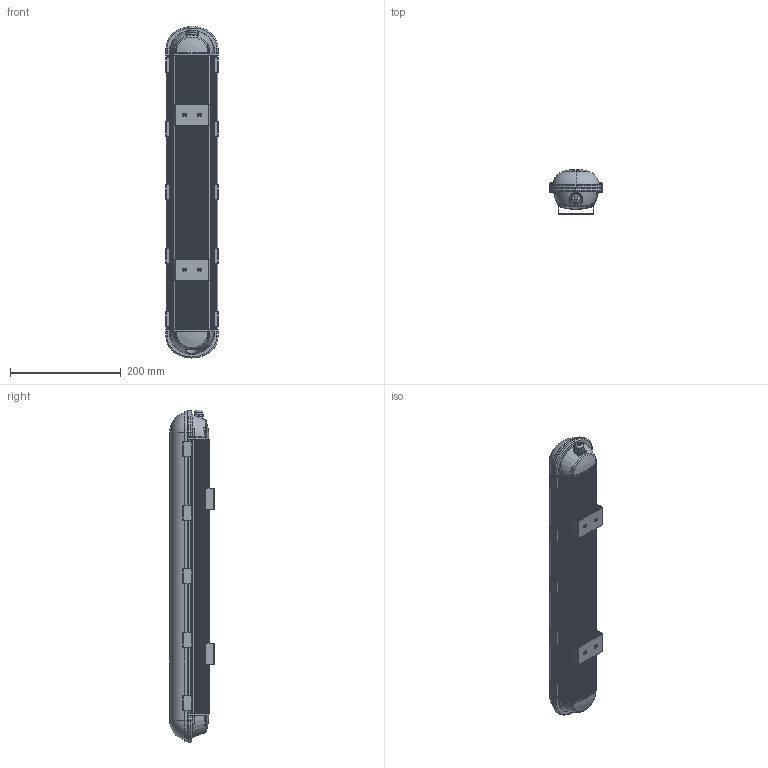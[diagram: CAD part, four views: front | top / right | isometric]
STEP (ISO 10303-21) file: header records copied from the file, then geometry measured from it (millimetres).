
FILE_DESCRIPTION(('STEP AP203'), '1');
FILE_NAME('Àëþìî Øîò 18Âò', '', ('UNSPECIFIED'), ('UNSPECIFIED'), 'ASCON STEP Converter 1.6', 'ASCON Math Kernel', '');
FILE_SCHEMA(('CONFIG_CONTROL_DESIGN'));
Length unit declared in the file: millimetre
Products named in the file (12): PGM7
Assembly tree (19 placements, depth 2):
  (unnamed)
    (unnamed)
    (unnamed)
    (unnamed)
    (unnamed)
    (unnamed)
    (unnamed)
    (unnamed)
    (unnamed)  x5
    (unnamed)  x5
    (unnamed)
    PGM7
Bounding box: 95 x 80.65 x 600.87 mm (x, y, z)
Volume: 1905321.9 mm3; surface area: 451523.1 mm2
Topology: 20 solids, 20 shells, 1204 faces, 3162 edges, 2007 vertices
Faces by surface type: bspline 566, cylinder 421, torus 167, plane 23, cone 13, extrusion 12, sphere 2
Full cylindrical faces by diameter (mm): 2.123 x4, 2.547 x4, 6.5 x2, 15.2 x2
Entity records: 71667 total; most frequent: CARTESIAN_POINT 41121, ORIENTED_EDGE 5028, DIRECTION 4260, EDGE_CURVE 2514, VERTEX_POINT 1589, AXIS2_PLACEMENT_3D 1487, VECTOR 1286, LINE 1274
